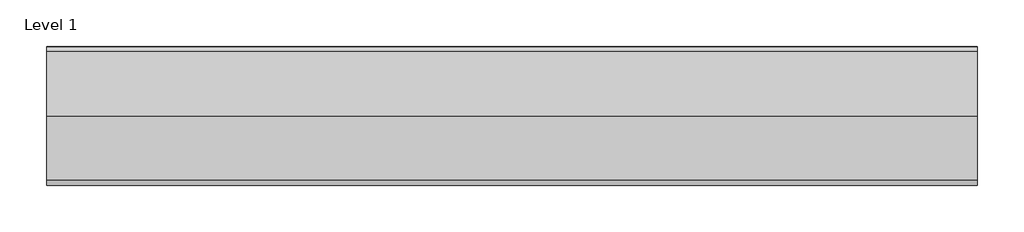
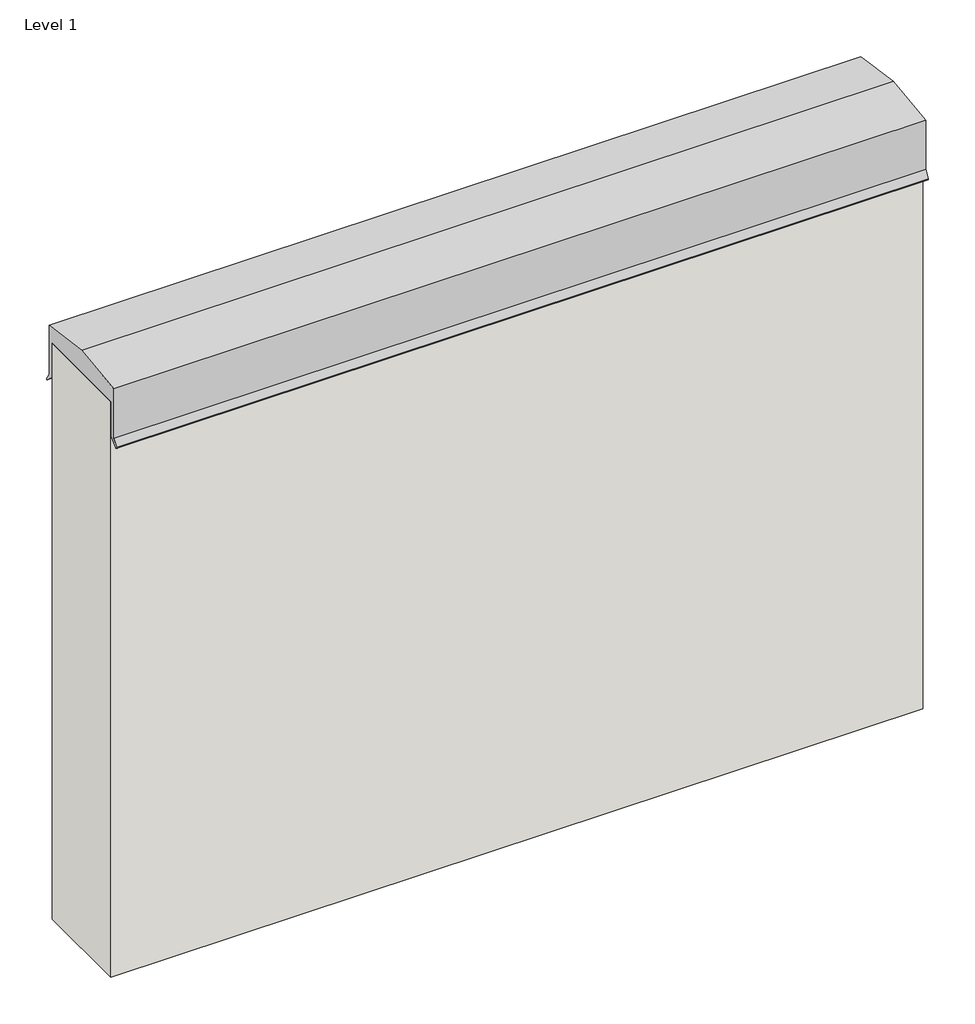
# One storey: 1 proxy, 1 wall.
"""IFC4 building model written with IfcOpenShell, lengths in millimetres."""

import ifcopenshell
import ifcopenshell.guid

model = None  # the IFC model being written
_history = None  # IfcOwnerHistory: only IFC2X3 demands one
_inside = {}  # id of a spatial element -> (the spatial element, [elements in it])
_under = {}  # id of a project, library or spatial element -> (it, [spatial elements below it])
_declared = {}  # id of a project -> (the project, [libraries it declares])
_typed = {}  # id of a type object -> (the type object, [elements of that type])
_made_of = {}  # id of a material, layer set ... -> (it, [elements and type objects made of it])


def new_model(schema):
    """Start an empty IFC model of exactly this schema.

    Asked for "IFC4X3", IfcOpenShell would pick the latest addendum, in which some entities
    have other attributes; the version numbers below select the first issue.
    IFC2X3 requires an IfcOwnerHistory on every rooted entity: one is made here for all.
    """
    global model, _history
    if schema == "IFC4X3":
        model = ifcopenshell.file(schema_version=(4, 3, 0, 0))
    else:
        model = ifcopenshell.file(schema=schema)
    _inside.clear()
    _under.clear()
    _declared.clear()
    _typed.clear()
    _made_of.clear()
    _history = None
    if model.schema == "IFC2X3":
        org = make("IfcOrganization", Name="unknown")
        user = make(
            "IfcPersonAndOrganization",
            ThePerson=make("IfcPerson", FamilyName="unknown"),
            TheOrganization=org,
        )
        app = make(
            "IfcApplication",
            ApplicationDeveloper=org,
            Version="unknown",
            ApplicationFullName="unknown",
            ApplicationIdentifier="unknown",
        )
        _history = make(
            "IfcOwnerHistory",
            OwningUser=user,
            OwningApplication=app,
            ChangeAction="ADDED",
            CreationDate=0,
        )
    return model


def make(cls, **values):
    """One entity of the class cls with the attributes given. An attribute that is None is left unset."""
    return model.create_entity(
        cls, **{name: value for name, value in values.items() if value is not None}
    )


def rooted(cls, **values):
    """An entity with a GlobalId (a new one), such as an element, a storey or a relation."""
    return make(cls, GlobalId=ifcopenshell.guid.new(), OwnerHistory=_history, **values)


def si_unit(unit_type, name, prefix=None):
    """IfcSIUnit, for example si_unit("LENGTHUNIT", "METRE", prefix="MILLI")."""
    return make("IfcSIUnit", UnitType=unit_type, Prefix=prefix, Name=name)


def assignment(units):
    """IfcUnitAssignment: the units of a project."""
    return None if units is None else make("IfcUnitAssignment", Units=units)


def point(xyz):
    """IfcCartesianPoint."""
    return None if xyz is None else make("IfcCartesianPoint", Coordinates=xyz)


def direction(xyz):
    """IfcDirection."""
    return None if xyz is None else make("IfcDirection", DirectionRatios=xyz)


def frame(location, z_axis=None, x_axis=None):
    """IfcAxis2Placement3D, a coordinate frame: its origin and axes. An axis left out is left unset."""
    return make(
        "IfcAxis2Placement3D",
        Location=point(location),
        Axis=direction(z_axis),
        RefDirection=direction(x_axis),
    )


def frame_2d(location, x_axis=None):
    """IfcAxis2Placement2D, a coordinate frame in the plane: its origin and x axis."""
    return make(
        "IfcAxis2Placement2D", Location=point(location), RefDirection=direction(x_axis)
    )


def origin():
    """The frame at (0, 0, 0) with its axes left unset."""
    return frame((0.0, 0.0, 0.0))


def place(relative_to, where):
    """IfcLocalPlacement: puts the frame where relative to a parent placement (None: the world)."""
    return make(
        "IfcLocalPlacement", PlacementRelTo=relative_to, RelativePlacement=where
    )


def context(
    kind, dimensions, precision=None, world=None, true_north=None, identifier=None
):
    """IfcGeometricRepresentationContext, for example the 3D "Model" context."""
    return make(
        "IfcGeometricRepresentationContext",
        ContextIdentifier=identifier,
        ContextType=kind,
        CoordinateSpaceDimension=dimensions,
        Precision=precision,
        WorldCoordinateSystem=world,
        TrueNorth=true_north,
    )


def project(units=None, contexts=None):
    """IfcProject with its units and contexts."""
    return rooted(
        "IfcProject",
        Name="project",
        RepresentationContexts=contexts,
        UnitsInContext=assignment(units),
    )


def spatial(cls, under=None, at=None, **own):
    """A site, building, storey or space (cls), placed at a placement, below another one or the project."""
    s = rooted(cls, ObjectPlacement=at, **own)
    if under is not None:
        _under.setdefault(under.id(), (under, []))[1].append(s)
    return s


def polyline(points):
    """IfcPolyline through the points."""
    return make("IfcPolyline", Points=[point(p) for p in points])


def circle_curve(where, radius):
    """IfcCircle in the frame where."""
    return make("IfcCircle", Position=where, Radius=radius)


def trimmed(basis, trim1, trim2, sense, master):
    """IfcTrimmedCurve: the piece of a basis curve between two trims."""
    return make(
        "IfcTrimmedCurve",
        BasisCurve=basis,
        Trim1=trim1,
        Trim2=trim2,
        SenseAgreement=sense,
        MasterRepresentation=master,
    )


def segment(curve, same_sense, transition):
    """IfcCompositeCurveSegment."""
    return make(
        "IfcCompositeCurveSegment",
        Transition=transition,
        SameSense=same_sense,
        ParentCurve=curve,
    )


def composite_curve(segments, self_intersect=None):
    """IfcCompositeCurve: segments joined end to end."""
    return make("IfcCompositeCurve", Segments=segments, SelfIntersect=self_intersect)


def outline(outer, holes=None, kind="AREA"):
    """IfcArbitraryClosedProfileDef: a profile drawn as a closed curve; with holes, ...WithVoids."""
    if holes is None:
        return make("IfcArbitraryClosedProfileDef", ProfileType=kind, OuterCurve=outer)
    return make(
        "IfcArbitraryProfileDefWithVoids",
        ProfileType=kind,
        OuterCurve=outer,
        InnerCurves=holes,
    )


def extrude(swept, where, along, depth):
    """IfcExtrudedAreaSolid: the profile swept, set in the frame where, extruded along a direction by depth."""
    return make(
        "IfcExtrudedAreaSolid",
        SweptArea=swept,
        Position=where,
        ExtrudedDirection=direction(along),
        Depth=depth,
    )


def faces_of(points, faces, orient=None, outer=None):
    """IfcFace entities. A face is a list of loops; a loop is a list of indices into points, from 0.

    orient and outer hold one flag for each loop. By default every Orientation is true, the
    first loop of a face is its IfcFaceOuterBound and the others are IfcFaceBound.
    """
    made = []
    for i, loops in enumerate(faces):
        bounds = []
        for j, loop in enumerate(loops):
            is_outer = j == 0 if outer is None else outer[i][j]
            bounds.append(
                make(
                    "IfcFaceOuterBound" if is_outer else "IfcFaceBound",
                    Bound=make("IfcPolyLoop", Polygon=[points[k] for k in loop]),
                    Orientation=True if orient is None else orient[i][j],
                )
            )
        made.append(make("IfcFace", Bounds=bounds))
    return made


def faceted_brep(points, faces, orient=None, outer=None, voids=None):
    """IfcFacetedBrep: a solid bounded by flat faces; with voids (closed shells), ...WithVoids."""
    shared = [point(p) for p in points]
    hull = make("IfcClosedShell", CfsFaces=faces_of(shared, faces, orient, outer))
    if voids is None:
        return make("IfcFacetedBrep", Outer=hull)
    return make(
        "IfcFacetedBrepWithVoids",
        Outer=hull,
        Voids=[
            make(cls, CfsFaces=faces_of(shared, fs, o, b)) for cls, fs, o, b in voids
        ],
    )


def shape(context_of_items, identifier, shape_type, items):
    """IfcShapeRepresentation: the items that make up one representation, for example the "Body"."""
    return make(
        "IfcShapeRepresentation",
        ContextOfItems=context_of_items,
        RepresentationIdentifier=identifier,
        RepresentationType=shape_type,
        Items=items,
    )


def made_of(thing, what):
    """Note that an element or type object is made of a material, layer set ...; save() writes the relation."""
    if what is not None:
        _made_of.setdefault(what.id(), (what, []))[1].append(thing)
    return thing


def element(
    cls,
    number,
    at=None,
    inside=None,
    cuts=None,
    type_object=None,
    material=None,
    context=None,
    identifier="Body",
    shape_type=None,
    held_by="IfcProductDefinitionShape",
    body=None,
    shapes=None,
    **own,
):
    """One element of the class cls, such as IfcWall. Its Tag is "e" and its number.

    at: its placement. inside: the storey or other place that contains it. cuts: it is an
    opening in that element (IfcRelVoidsElement). A single representation is given by context,
    identifier, shape_type and body (its items); several are given by shapes. held_by: the class
    of the entity that holds the representations. save() writes the other relations.
    """
    e = rooted(cls, Tag="e%d" % number, ObjectPlacement=at, **own)
    if body is not None:
        shapes = [shape(context, identifier, shape_type, body)]
    if shapes is not None:
        e.Representation = make(held_by, Representations=shapes)
    if inside is not None:
        _inside.setdefault(inside.id(), (inside, []))[1].append(e)
    if cuts is not None:
        rooted(
            "IfcRelVoidsElement", RelatingBuildingElement=cuts, RelatedOpeningElement=e
        )
    if type_object is not None:
        _typed.setdefault(type_object.id(), (type_object, []))[1].append(e)
    return made_of(e, material)


def aggregate(whole, parts):
    """IfcRelAggregates: a whole, such as a stair, and the parts it consists of."""
    return rooted("IfcRelAggregates", RelatingObject=whole, RelatedObjects=parts)


def save(model, path):
    """Write the relations noted so far, then the file.

    IfcRelAggregates (storeys below a building ...), IfcRelContainedInSpatialStructure (elements
    in a storey), IfcRelDefinesByType, IfcRelAssociatesMaterial and IfcRelDeclares: one each for
    every whole, place, type object, material and project.
    """
    for whole, parts in _under.values():
        aggregate(whole, parts)
    for where, things in _inside.values():
        rooted(
            "IfcRelContainedInSpatialStructure",
            RelatedElements=things,
            RelatingStructure=where,
        )
    for kind, things in _typed.values():
        rooted("IfcRelDefinesByType", RelatedObjects=things, RelatingType=kind)
    for what, things in _made_of.values():
        rooted("IfcRelAssociatesMaterial", RelatedObjects=things, RelatingMaterial=what)
    for by, libraries in _declared.values():
        rooted("IfcRelDeclares", RelatingContext=by, RelatedDefinitions=libraries)
    model.write(path)


model = new_model("IFC4")

# Units and contexts
model_context = context("Model", 3, world=origin())
ifc_project = project(units=[si_unit("LENGTHUNIT", "METRE", prefix="MILLI")], contexts=[model_context])

# Site, building, storey
site = spatial("IfcSite", under=ifc_project)
building = spatial("IfcBuilding", under=site)
storey = spatial("IfcBuildingStorey", under=building, Name="Level 1", Elevation=0.0)

# Proxy
placement = place(None, origin())
element("IfcBuildingElementProxy", 1, Name="Coping-Metal_Era-Perma_Tite_Double_Tapered_Coping_Version", ObjectType="Coping-Metal_Era-Perma_Tite_Double_Tapered_Coping_Version", at=placement, inside=storey, context=model_context, shape_type="SweptSolid", body=[
    extrude(outline(composite_curve([segment(polyline([(5718.7656326, 949.8900424), (5802.9031326, 938.2125), (5802.9031326, 860.9900424), (5809.7096259, 850.5089618)]), True, "CONTINUOUS"), segment(trimmed(circle_curve(frame_2d((5808.6923043, 849.8483054)), 1.213017), [point((5809.7096259, 850.5089618))], [point((5807.8650287, 848.961161))], False, "CARTESIAN"), True, "CONTINUOUS"), segment(polyline([(5807.8650287, 848.961161), (5794.9656326, 860.9900424), (5794.9656326, 914.4), (5642.5656326, 914.4), (5642.5656326, 860.9900424), (5629.6662366, 848.961161)]), True, "CONTINUOUS"), segment(trimmed(circle_curve(frame_2d((5628.838961, 849.8483054)), 1.213017), [point((5629.6662366, 848.961161))], [point((5627.8216394, 850.5089618))], False, "CARTESIAN"), True, "CONTINUOUS"), segment(polyline([(5627.8216394, 850.5089618), (5634.6281326, 860.9900424), (5634.6281326, 939.3425847), (5718.7656326, 949.8900424)]), True, "CONTINUOUS")], self_intersect=False)), frame((1983.6943366, 0.0, 0.0), z_axis=(1.0, 0.0, 0.0), x_axis=(0.0, 1.0, 0.0)), (0.0, 0.0, 1.0), 1219.2),
])

# Wall
element("IfcWall", 2, ObjectType="Generic - 8\"", at=placement, inside=storey, context=model_context, shape_type="Brep", body=[
    faceted_brep([(1983.6943366, 5642.5656326, 0.0), (3202.8943366, 5642.5656326, 0.0), (3202.8943366, 5642.5656326, 860.9900424), (3202.8943366, 5642.5656326, 914.4), (1983.6943366, 5642.5656326, 914.4), (1983.6943366, 5642.5656326, 860.9900424), (3202.8943366, 5794.9656326, 0.0), (1983.6943366, 5794.9656326, 0.0), (1983.6943366, 5794.9656326, 860.9900424), (1983.6943366, 5794.9656326, 914.4), (3202.8943366, 5794.9656326, 914.4), (3202.8943366, 5794.9656326, 860.9900424)], [[[0, 1, 2, 3, 4, 5]], [[6, 7, 8, 9, 10, 11]], [[1, 0, 7, 6]], [[1, 6, 11, 10, 3, 2]], [[4, 3, 10, 9]], [[4, 9, 8, 7, 0, 5]]]),
])

save(model, "model.ifc")
